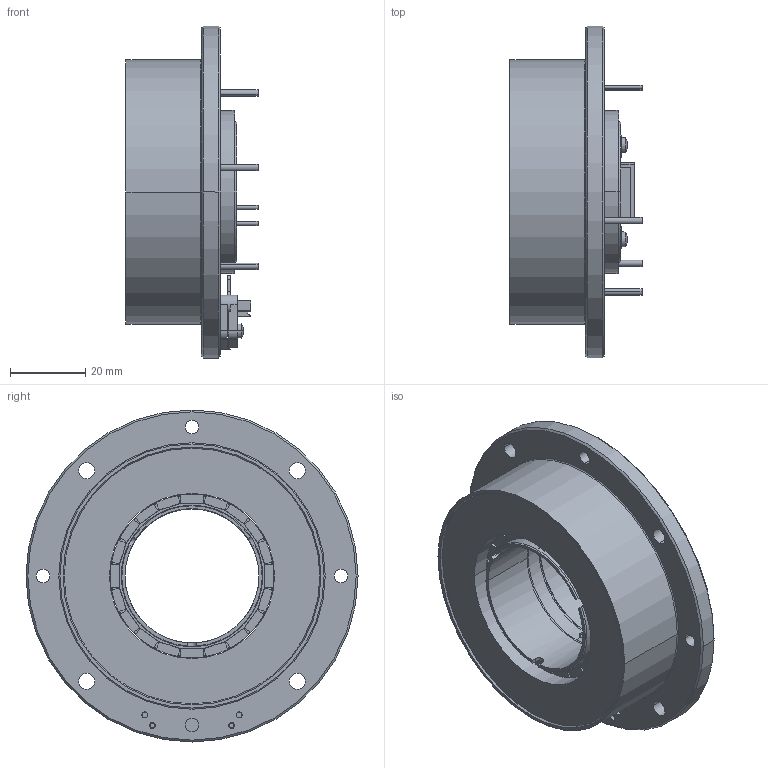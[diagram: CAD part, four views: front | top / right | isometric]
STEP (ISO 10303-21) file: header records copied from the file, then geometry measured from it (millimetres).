
FILE_DESCRIPTION((''),'2;1');
FILE_NAME('AXIALER-STECKERABGANG_SW0001','2024-02-14T14:05:31',('MMAGVISI'),(''),'CREO PARAMETRIC BY PTC INC, 2023092','CREO PARAMETRIC BY PTC INC, 2023092','');
FILE_SCHEMA(('CONFIG_CONTROL_DESIGN','SHAPE_APPEARANCE_LAYERS_GROUPS'));
Length unit declared in the file: millimetre
Products named in the file (1): AXIALER-STECKERABGANG_SW0001
Bounding box: 35 x 88 x 88 mm (x, y, z)
Volume: 77038.6 mm3; surface area: 31174.7 mm2
Topology: 2 solids, 3 shells, 1196 faces, 3267 edges, 2120 vertices
Faces by surface type: plane 818, cylinder 256, cone 62, torus 56, sphere 4
Entity records: 50021 total; most frequent: CARTESIAN_POINT 9997, ORIENTED_EDGE 6534, DIRECTION 5845, PRESENTATION_STYLE_ASSIGNMENT 3269, STYLED_ITEM 3269, CURVE_STYLE 3267, EDGE_CURVE 3267, VECTOR 2227
